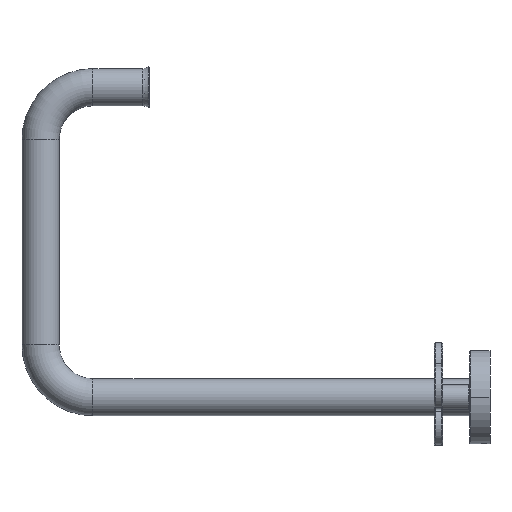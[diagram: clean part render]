
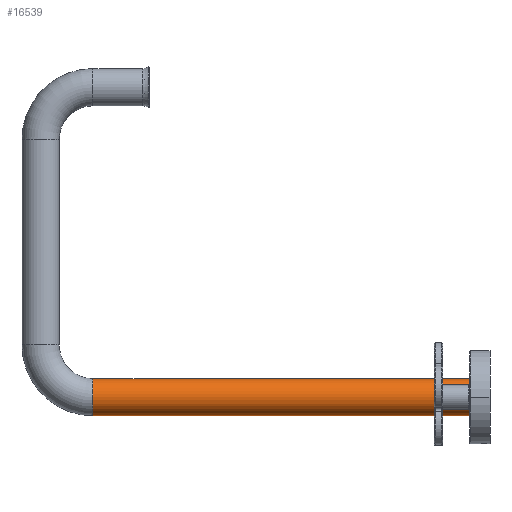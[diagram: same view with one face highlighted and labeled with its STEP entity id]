
A CAD part, left-side view. The second image highlights one B-rep face of the part: STEP entity #16539.
In plain terms, the highlighted cylindrical face has radius 12 mm (diameter 24 mm), a partial arc.
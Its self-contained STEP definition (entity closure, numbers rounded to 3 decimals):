
#14907=DIRECTION('',(0.,1.,0.));
#14908=VECTOR('',#14907,243.25);
#14909=CARTESIAN_POINT('',(100.,162.2,12.));
#14910=LINE('',#14909,#14908);
#14926=CARTESIAN_POINT('',(100.,162.2,0.));
#14927=DIRECTION('',(0.,1.,0.));
#14928=DIRECTION('',(0.,0.,-1.));
#14929=AXIS2_PLACEMENT_3D('',#14926,#14927,#14928);
#14967=DIRECTION('',(0.,1.,0.));
#14968=VECTOR('',#14967,243.25);
#14969=CARTESIAN_POINT('',(100.,162.2,-12.));
#14970=LINE('',#14969,#14968);
#14971=CARTESIAN_POINT('',(100.,405.45,0.));
#14972=DIRECTION('',(0.,1.,0.));
#14973=DIRECTION('',(0.,0.,-1.));
#14974=AXIS2_PLACEMENT_3D('',#14971,#14972,#14973);
#15049=CARTESIAN_POINT('',(100.,405.45,12.));
#15050=CARTESIAN_POINT('',(100.,405.45,-12.));
#15051=VERTEX_POINT('',#15049);
#15052=VERTEX_POINT('',#15050);
#15097=CARTESIAN_POINT('',(100.,162.2,12.));
#15098=CARTESIAN_POINT('',(100.,162.2,-12.));
#15099=VERTEX_POINT('',#15097);
#15100=VERTEX_POINT('',#15098);
#16527=CARTESIAN_POINT('',(100.,162.2,0.));
#16528=DIRECTION('',(0.,1.,0.));
#16529=DIRECTION('',(0.,0.,1.));
#16530=AXIS2_PLACEMENT_3D('',#16527,#16528,#16529);
#16531=CYLINDRICAL_SURFACE('',#16530,12.);
#16532=ORIENTED_EDGE('',*,*,#16414,.F.);
#16533=ORIENTED_EDGE('',*,*,#16390,.T.);
#16535=ORIENTED_EDGE('',*,*,#16534,.T.);
#16536=ORIENTED_EDGE('',*,*,#16387,.F.);
#16537=EDGE_LOOP('',(#16532,#16533,#16535,#16536));
#16538=FACE_OUTER_BOUND('',#16537,.F.);
#14930=CIRCLE('',#14929,12.);
#14975=CIRCLE('',#14974,12.);
#16387=EDGE_CURVE('',#15099,#15051,#14910,.T.);
#16390=EDGE_CURVE('',#15100,#15052,#14970,.T.);
#16414=EDGE_CURVE('',#15100,#15099,#14930,.T.);
#16534=EDGE_CURVE('',#15052,#15051,#14975,.T.);
#16539=ADVANCED_FACE('',(#16538),#16531,.T.);
